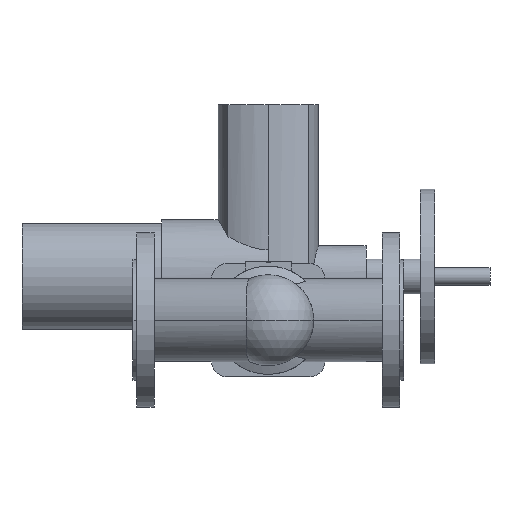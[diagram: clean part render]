
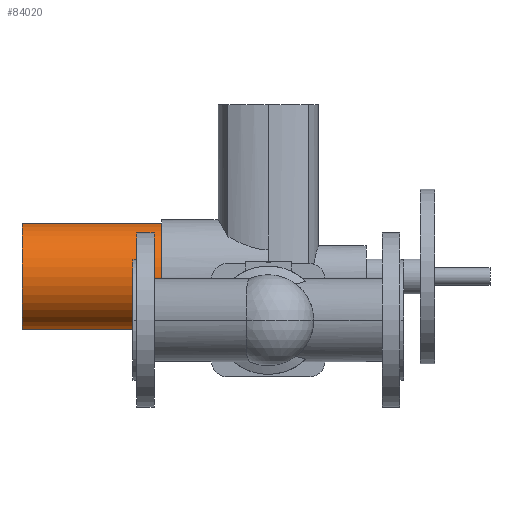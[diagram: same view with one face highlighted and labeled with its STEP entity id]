
A CAD part, front view. The second image highlights one B-rep face of the part: STEP entity #84020.
In plain terms, the highlighted cylindrical face has radius 60.5 mm (diameter 121 mm), a partial arc.
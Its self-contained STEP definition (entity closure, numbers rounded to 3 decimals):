
#66720=CARTESIAN_POINT('',(-47.,462.5,50.));
#66730=DIRECTION('',(1.,0.,0.));
#66740=DIRECTION('',(0.,0.,-1.));
#66750=AXIS2_PLACEMENT_3D('',#66720,#66730,#66740);
#66760=CYLINDRICAL_SURFACE('',#66750,60.5);
#66770=CARTESIAN_POINT('',(-47.,462.5,110.5));
#66780=DIRECTION('',(1.,0.,0.));
#66790=VECTOR('',#66780,1.);
#66800=LINE('',#66770,#66790);
#66810=CARTESIAN_POINT('',(-127.,462.5,110.5));
#66820=VERTEX_POINT('',#66810);
#66830=CARTESIAN_POINT('',(33.,462.5,110.5));
#66840=VERTEX_POINT('',#66830);
#66850=EDGE_CURVE('',#66820,#66840,#66800,.T.);
#66870=CARTESIAN_POINT('',(-127.,462.5,50.));
#66880=DIRECTION('',(-1.,0.,0.));
#66890=DIRECTION('',(0.,0.,-1.));
#66900=AXIS2_PLACEMENT_3D('',#66870,#66880,#66890);
#66910=CIRCLE('',#66900,60.5);
#66920=CARTESIAN_POINT('',(-127.,462.5,-10.5));
#66930=VERTEX_POINT('',#66920);
#66960=CARTESIAN_POINT('',(-47.,462.5,-10.5));
#66970=DIRECTION('',(1.,0.,0.));
#66980=VECTOR('',#66970,1.);
#66990=LINE('',#66960,#66980);
#67000=CARTESIAN_POINT('',(33.,462.5,-10.5));
#67010=VERTEX_POINT('',#67000);
#67020=EDGE_CURVE('',#66930,#67010,#66990,.T.);
#67040=CARTESIAN_POINT('',(33.,462.5,50.));
#67050=DIRECTION('',(-1.,0.,0.));
#67060=DIRECTION('',(0.,0.,-1.));
#67070=AXIS2_PLACEMENT_3D('',#67040,#67050,#67060);
#67080=CIRCLE('',#67070,60.5);
#80820=EDGE_CURVE('',#67010,#66840,#67080,.T.);
#80980=EDGE_CURVE('',#66930,#66820,#66910,.T.);
#83960=ORIENTED_EDGE('',*,*,#80980,.F.);
#83970=ORIENTED_EDGE('',*,*,#66850,.F.);
#83980=ORIENTED_EDGE('',*,*,#80820,.T.);
#83990=ORIENTED_EDGE('',*,*,#67020,.T.);
#84000=EDGE_LOOP('',(#83990,#83980,#83970,#83960));
#84010=FACE_OUTER_BOUND('',#84000,.T.);
#84020=ADVANCED_FACE('',(#84010),#66760,.T.);
